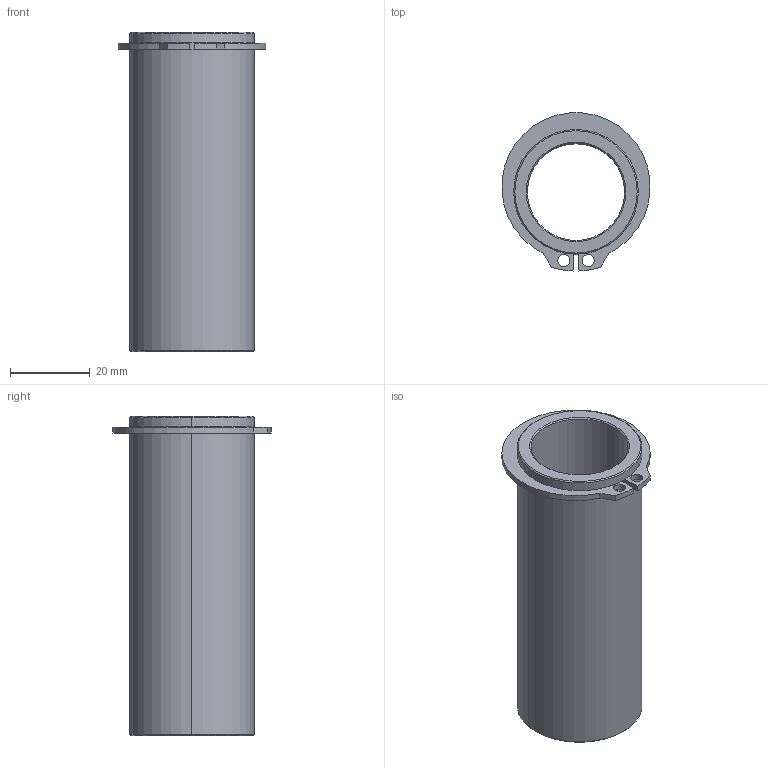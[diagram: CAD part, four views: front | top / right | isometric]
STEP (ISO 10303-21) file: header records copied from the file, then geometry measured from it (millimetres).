
FILE_DESCRIPTION((''),'2;1');
FILE_NAME('C13_024_080.stp','2008-12-17T14:55:56',(''),(''),'Mechanical Desktop 2009','Mechanical Desktop 2009',', , ');
FILE_SCHEMA(('CONFIG_CONTROL_DESIGN'));
Length unit declared in the file: millimetre
Products named in the file (2): Product; blmdl1
Assembly tree (1 placements, depth 2):
  Product
    blmdl1
Bounding box: 37.06 x 39.59 x 80 mm (x, y, z)
Volume: 24587.5 mm3; surface area: 15746.9 mm2
Topology: 2 solids, 2 shells, 34 faces, 76 edges, 48 vertices
Faces by surface type: cylinder 16, plane 10, cone 8
Entity records: 1075 total; most frequent: DIRECTION 188, CARTESIAN_POINT 160, ORIENTED_EDGE 152, AXIS2_PLACEMENT_3D 76, EDGE_CURVE 76, VERTEX_POINT 48, EDGE_LOOP 42, CIRCLE 40
